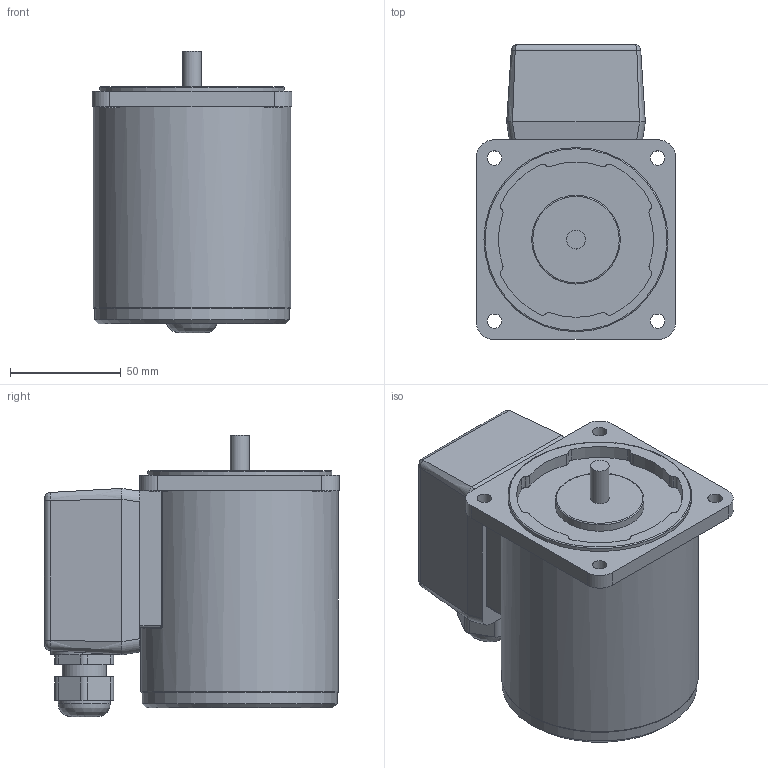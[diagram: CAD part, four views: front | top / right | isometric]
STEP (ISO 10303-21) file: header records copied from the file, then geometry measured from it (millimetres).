
FILE_DESCRIPTION((''),'2;1');
FILE_NAME('E:\2공장-도면\3D\표준형 3D(민규)\step file\K9IG40Nㅁ-T.stp','2014-11-12T17:50:29',('AHN'),(''),'Autodesk Inventor 2012','Autodesk Inventor 2012','');
FILE_SCHEMA(('CONFIG_CONTROL_DESIGN'));
Length unit declared in the file: millimetre
Products named in the file (3): K9IG40Nㅁ-T; K9IG40Nㅁ; TERMINAL BOX
Assembly tree (2 placements, depth 2):
  K9IG40Nㅁ-T
    K9IG40Nㅁ
    TERMINAL BOX
Bounding box: 90 x 133 x 127 mm (x, y, z)
Volume: 870825.1 mm3; surface area: 71773.6 mm2
Topology: 2 solids, 2 shells, 132 faces, 324 edges, 208 vertices
Faces by surface type: cylinder 68, plane 48, bspline 11, torus 4, cone 1
Full cylindrical faces by diameter (mm): 6.5 x4, 8 x4, 8.47 x1, 20 x1, 23.5 x1, 40 x1, 83 x1, 88 x1, 89 x1
Entity records: 4228 total; most frequent: CARTESIAN_POINT 1060, DIRECTION 675, ORIENTED_EDGE 600, EDGE_CURVE 300, AXIS2_PLACEMENT_3D 267, VERTEX_POINT 204, EDGE_LOOP 172, VECTOR 141
